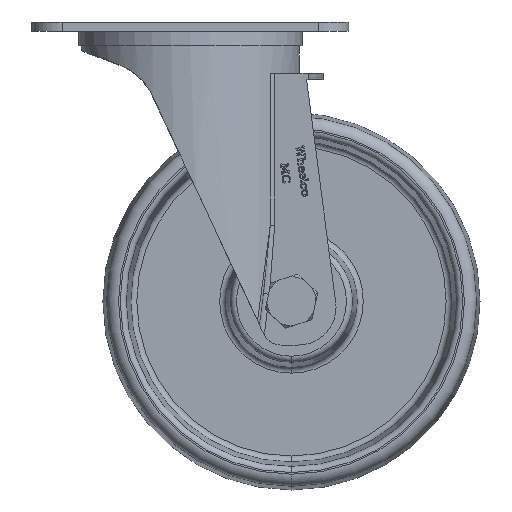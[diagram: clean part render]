
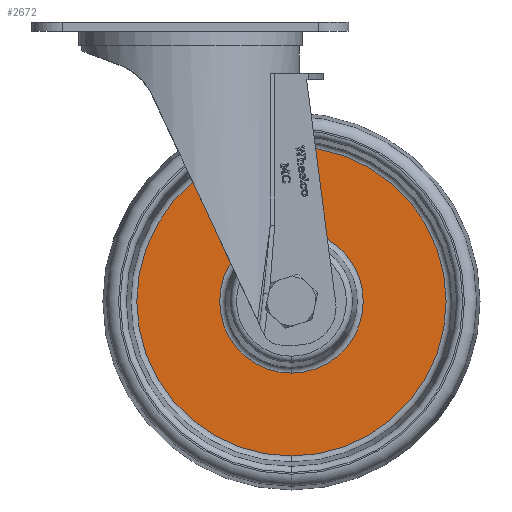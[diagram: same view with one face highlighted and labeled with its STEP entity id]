
A CAD part, top view. The second image highlights one B-rep face of the part: STEP entity #2672.
In plain terms, the highlighted planar face has unit normal (0, 0, 1) as drawn and (0, -1, 0) by its records, which use the part's own axes.
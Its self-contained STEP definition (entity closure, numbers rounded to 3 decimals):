
#92 = DIRECTION ( 'NONE',  ( 0., 0., -1. ) ) ;
#215 = CARTESIAN_POINT ( 'NONE',  ( 0., -4., 0. ) ) ;
#557 = VERTEX_POINT ( 'NONE', #11706 ) ;
#1050 = VERTEX_POINT ( 'NONE', #21935 ) ;
#1672 = ORIENTED_EDGE ( 'NONE', *, *, #14700, .F. ) ;
#1765 = ORIENTED_EDGE ( 'NONE', *, *, #6346, .T. ) ;
#2092 = AXIS2_PLACEMENT_3D ( 'NONE', #11526, #7614, #19644 ) ;
#2672 = ADVANCED_FACE ( 'NONE', ( #22669, #5323 ), #7093, .T. ) ;
#3046 = CARTESIAN_POINT ( 'NONE',  ( 0., -4., 51.249 ) ) ;
#4117 = ORIENTED_EDGE ( 'NONE', *, *, #13784, .F. ) ;
#5201 = DIRECTION ( 'NONE',  ( 0., 0., 1. ) ) ;
#5323 = FACE_OUTER_BOUND ( 'NONE', #16414, .T. ) ;
#5712 = AXIS2_PLACEMENT_3D ( 'NONE', #215, #25036, #11833 ) ;
#5777 = CARTESIAN_POINT ( 'NONE',  ( 0., -4., 0. ) ) ;
#6119 = CIRCLE ( 'NONE', #19895, 23.79 ) ;
#6346 = EDGE_CURVE ( 'NONE', #1050, #11988, #9139, .T. ) ;
#7093 = PLANE ( 'NONE',  #17907 ) ;
#7614 = DIRECTION ( 'NONE',  ( 0., -1., 0. ) ) ;
#9139 = CIRCLE ( 'NONE', #14361, 51.249 ) ;
#9293 = VERTEX_POINT ( 'NONE', #24743 ) ;
#10870 = EDGE_CURVE ( 'NONE', #11988, #1050, #12571, .T. ) ;
#11342 = DIRECTION ( 'NONE',  ( 0., -1., 0. ) ) ;
#11526 = CARTESIAN_POINT ( 'NONE',  ( 0., -4., 0. ) ) ;
#11706 = CARTESIAN_POINT ( 'NONE',  ( 0., -4., -23.79 ) ) ;
#11833 = DIRECTION ( 'NONE',  ( 0., 0., -1. ) ) ;
#11988 = VERTEX_POINT ( 'NONE', #3046 ) ;
#12571 = CIRCLE ( 'NONE', #2092, 51.249 ) ;
#13452 = DIRECTION ( 'NONE',  ( 0., -1., 0. ) ) ;
#13784 = EDGE_CURVE ( 'NONE', #557, #9293, #24730, .T. ) ;
#14361 = AXIS2_PLACEMENT_3D ( 'NONE', #5777, #11342, #92 ) ;
#14700 = EDGE_CURVE ( 'NONE', #9293, #557, #6119, .T. ) ;
#15544 = EDGE_LOOP ( 'NONE', ( #4117, #1672 ) ) ;
#15750 = DIRECTION ( 'NONE',  ( 0., 0., -1. ) ) ;
#15873 = ORIENTED_EDGE ( 'NONE', *, *, #10870, .T. ) ;
#16414 = EDGE_LOOP ( 'NONE', ( #1765, #15873 ) ) ;
#17907 = AXIS2_PLACEMENT_3D ( 'NONE', #18763, #22544, #5201 ) ;
#18465 = CARTESIAN_POINT ( 'NONE',  ( 0., -4., 0. ) ) ;
#18763 = CARTESIAN_POINT ( 'NONE',  ( 23.79, -4., 0. ) ) ;
#19644 = DIRECTION ( 'NONE',  ( 0., 0., -1. ) ) ;
#19895 = AXIS2_PLACEMENT_3D ( 'NONE', #18465, #13452, #15750 ) ;
#21935 = CARTESIAN_POINT ( 'NONE',  ( 0., -4., -51.249 ) ) ;
#22544 = DIRECTION ( 'NONE',  ( 0., -1., 0. ) ) ;
#22669 = FACE_BOUND ( 'NONE', #15544, .T. ) ;
#24730 = CIRCLE ( 'NONE', #5712, 23.79 ) ;
#24743 = CARTESIAN_POINT ( 'NONE',  ( 0., -4., 23.79 ) ) ;
#25036 = DIRECTION ( 'NONE',  ( 0., -1., 0. ) ) ;
